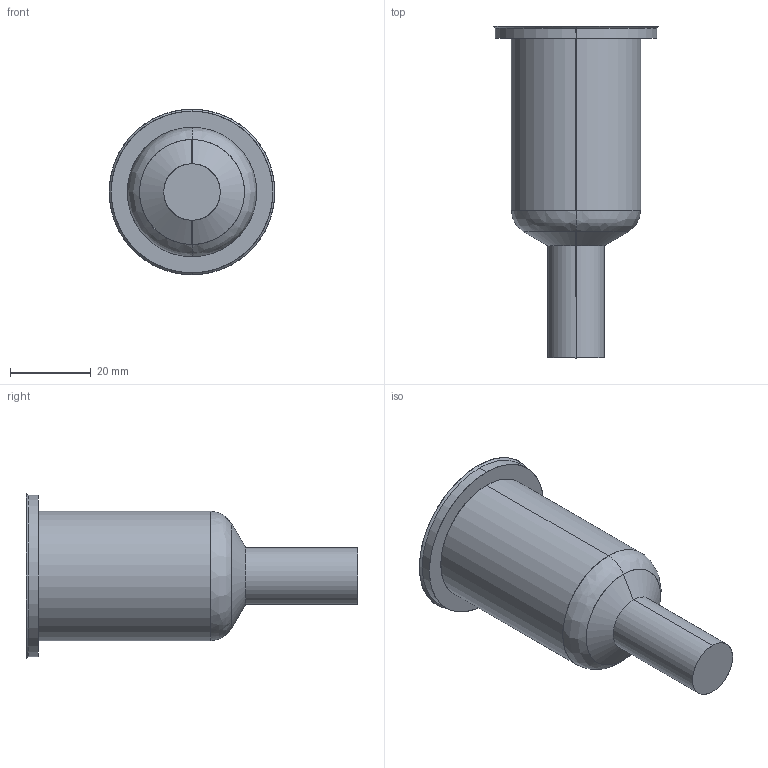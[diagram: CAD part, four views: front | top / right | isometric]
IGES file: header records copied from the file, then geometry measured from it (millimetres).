
Start section: SolidWorks IGES file using analytic representation for surfaces
Global section: file name: C:\Documents and Settings\ws-20\Desktop\TEM\Sede UGEP4101-M-A C-54 L-74 P-25.IGS; native system: SolidWorks 2012; preprocessor: SolidWorks 2012; author: ws-20; date: 120426.091327; units: millimetre
Bounding box: 41 x 82.14 x 41 mm (x, y, z)
Surface area: 8870 mm2 (no closed solid volume)
Topology: 0 solids, 0 shells, 15 faces, 272 edges, 272 vertices
Faces by surface type: revolution 10, bspline 5
